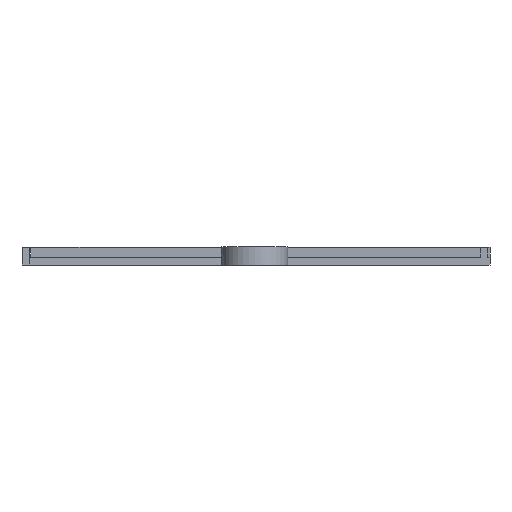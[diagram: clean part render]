
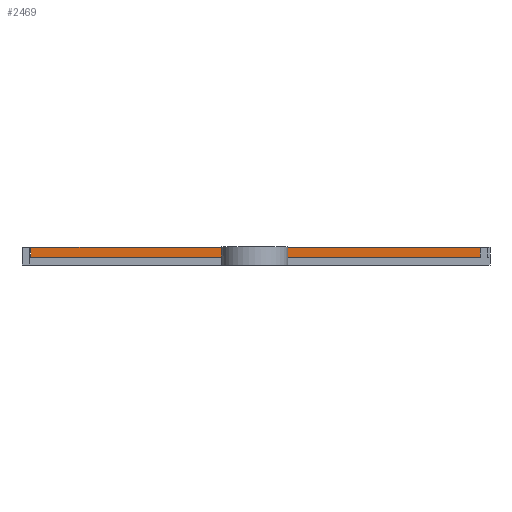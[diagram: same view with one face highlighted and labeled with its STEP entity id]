
A CAD part, front view. The second image highlights one B-rep face of the part: STEP entity #2469.
In plain terms, the highlighted planar face has unit normal (0, -1, 0).
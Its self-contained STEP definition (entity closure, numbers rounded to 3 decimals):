
#44 = PLANE('',#45);
#45 = AXIS2_PLACEMENT_3D('',#46,#47,#48);
#46 = CARTESIAN_POINT('',(-40.3,-21.3,1.2));
#47 = DIRECTION('',(0.,0.,1.));
#48 = DIRECTION('',(1.,0.,0.));
#339 = VERTEX_POINT('',#340);
#340 = CARTESIAN_POINT('',(30.3,-20.9,1.2));
#354 = PLANE('',#355);
#355 = AXIS2_PLACEMENT_3D('',#356,#357,#358);
#356 = CARTESIAN_POINT('',(30.3,-21.3,0.));
#357 = DIRECTION('',(1.,0.,0.));
#358 = DIRECTION('',(0.,0.,1.));
#365 = EDGE_CURVE('',#339,#366,#368,.T.);
#366 = VERTEX_POINT('',#367);
#367 = CARTESIAN_POINT('',(-40.,-20.9,1.2));
#368 = SURFACE_CURVE('',#369,(#373,#380),.PCURVE_S1.);
#369 = LINE('',#370,#371);
#370 = CARTESIAN_POINT('',(-40.15,-20.9,1.2));
#371 = VECTOR('',#372,1.);
#372 = DIRECTION('',(-1.,0.,0.));
#373 = PCURVE('',#44,#374);
#374 = DEFINITIONAL_REPRESENTATION('',(#375),#379);
#375 = LINE('',#376,#377);
#376 = CARTESIAN_POINT('',(0.15,0.4));
#377 = VECTOR('',#378,1.);
#378 = DIRECTION('',(-1.,0.));
#379 = ( GEOMETRIC_REPRESENTATION_CONTEXT(2) 
PARAMETRIC_REPRESENTATION_CONTEXT() REPRESENTATION_CONTEXT('2D SPACE',''
  ) );
#380 = PCURVE('',#381,#386);
#381 = PLANE('',#382);
#382 = AXIS2_PLACEMENT_3D('',#383,#384,#385);
#383 = CARTESIAN_POINT('',(-40.,-20.9,0.));
#384 = DIRECTION('',(0.,1.,0.));
#385 = DIRECTION('',(0.,0.,1.));
#386 = DEFINITIONAL_REPRESENTATION('',(#387),#390);
#387 = B_SPLINE_CURVE_WITH_KNOTS('',1,(#388,#389),.UNSPECIFIED.,.F.,.F.,
  (2,2),(-71.95,-0.15),.PIECEWISE_BEZIER_KNOTS.);
#388 = CARTESIAN_POINT('',(1.2,71.8));
#389 = CARTESIAN_POINT('',(1.2,0.));
#390 = ( GEOMETRIC_REPRESENTATION_CONTEXT(2) 
PARAMETRIC_REPRESENTATION_CONTEXT() REPRESENTATION_CONTEXT('2D SPACE',''
  ) );
#408 = PLANE('',#409);
#409 = AXIS2_PLACEMENT_3D('',#410,#411,#412);
#410 = CARTESIAN_POINT('',(-40.,-20.9,0.));
#411 = DIRECTION('',(1.,0.,0.));
#412 = DIRECTION('',(0.,0.,1.));
#2044 = PLANE('',#2045);
#2045 = AXIS2_PLACEMENT_3D('',#2046,#2047,#2048);
#2046 = CARTESIAN_POINT('',(30.3,-21.3,2.75));
#2047 = DIRECTION('',(0.,0.,1.));
#2048 = DIRECTION('',(1.,0.,0.));
#2424 = EDGE_CURVE('',#366,#2425,#2427,.T.);
#2425 = VERTEX_POINT('',#2426);
#2426 = CARTESIAN_POINT('',(-40.,-20.9,2.75));
#2427 = SURFACE_CURVE('',#2428,(#2432,#2439),.PCURVE_S1.);
#2428 = LINE('',#2429,#2430);
#2429 = CARTESIAN_POINT('',(-40.,-20.9,0.));
#2430 = VECTOR('',#2431,1.);
#2431 = DIRECTION('',(0.,0.,1.));
#2432 = PCURVE('',#408,#2433);
#2433 = DEFINITIONAL_REPRESENTATION('',(#2434),#2438);
#2434 = LINE('',#2435,#2436);
#2435 = CARTESIAN_POINT('',(0.,0.));
#2436 = VECTOR('',#2437,1.);
#2437 = DIRECTION('',(1.,0.));
#2438 = ( GEOMETRIC_REPRESENTATION_CONTEXT(2) 
PARAMETRIC_REPRESENTATION_CONTEXT() REPRESENTATION_CONTEXT('2D SPACE',''
  ) );
#2439 = PCURVE('',#381,#2440);
#2440 = DEFINITIONAL_REPRESENTATION('',(#2441),#2445);
#2441 = LINE('',#2442,#2443);
#2442 = CARTESIAN_POINT('',(0.,0.));
#2443 = VECTOR('',#2444,1.);
#2444 = DIRECTION('',(1.,0.));
#2445 = ( GEOMETRIC_REPRESENTATION_CONTEXT(2) 
PARAMETRIC_REPRESENTATION_CONTEXT() REPRESENTATION_CONTEXT('2D SPACE',''
  ) );
#2469 = ADVANCED_FACE('',(#2470),#381,.F.);
#2470 = FACE_BOUND('',#2471,.F.);
#2471 = EDGE_LOOP('',(#2472,#2493,#2494,#2495));
#2472 = ORIENTED_EDGE('',*,*,#2473,.T.);
#2473 = EDGE_CURVE('',#2474,#339,#2476,.T.);
#2474 = VERTEX_POINT('',#2475);
#2475 = CARTESIAN_POINT('',(30.3,-20.9,2.75));
#2476 = SURFACE_CURVE('',#2477,(#2481,#2487),.PCURVE_S1.);
#2477 = LINE('',#2478,#2479);
#2478 = CARTESIAN_POINT('',(30.3,-20.9,0.));
#2479 = VECTOR('',#2480,1.);
#2480 = DIRECTION('',(0.,0.,-1.));
#2481 = PCURVE('',#381,#2482);
#2482 = DEFINITIONAL_REPRESENTATION('',(#2483),#2486);
#2483 = B_SPLINE_CURVE_WITH_KNOTS('',1,(#2484,#2485),.UNSPECIFIED.,.F.,
  .F.,(2,2),(-2.75,-1.2),.PIECEWISE_BEZIER_KNOTS.);
#2484 = CARTESIAN_POINT('',(2.75,70.3));
#2485 = CARTESIAN_POINT('',(1.2,70.3));
#2486 = ( GEOMETRIC_REPRESENTATION_CONTEXT(2) 
PARAMETRIC_REPRESENTATION_CONTEXT() REPRESENTATION_CONTEXT('2D SPACE',''
  ) );
#2487 = PCURVE('',#354,#2488);
#2488 = DEFINITIONAL_REPRESENTATION('',(#2489),#2492);
#2489 = B_SPLINE_CURVE_WITH_KNOTS('',1,(#2490,#2491),.UNSPECIFIED.,.F.,
  .F.,(2,2),(-2.75,-1.2),.PIECEWISE_BEZIER_KNOTS.);
#2490 = CARTESIAN_POINT('',(2.75,-0.4));
#2491 = CARTESIAN_POINT('',(1.2,-0.4));
#2492 = ( GEOMETRIC_REPRESENTATION_CONTEXT(2) 
PARAMETRIC_REPRESENTATION_CONTEXT() REPRESENTATION_CONTEXT('2D SPACE',''
  ) );
#2493 = ORIENTED_EDGE('',*,*,#365,.T.);
#2494 = ORIENTED_EDGE('',*,*,#2424,.T.);
#2495 = ORIENTED_EDGE('',*,*,#2496,.T.);
#2496 = EDGE_CURVE('',#2425,#2474,#2497,.T.);
#2497 = SURFACE_CURVE('',#2498,(#2502,#2509),.PCURVE_S1.);
#2498 = LINE('',#2499,#2500);
#2499 = CARTESIAN_POINT('',(-40.,-20.9,2.75));
#2500 = VECTOR('',#2501,1.);
#2501 = DIRECTION('',(1.,0.,0.));
#2502 = PCURVE('',#381,#2503);
#2503 = DEFINITIONAL_REPRESENTATION('',(#2504),#2508);
#2504 = LINE('',#2505,#2506);
#2505 = CARTESIAN_POINT('',(2.75,0.));
#2506 = VECTOR('',#2507,1.);
#2507 = DIRECTION('',(0.,1.));
#2508 = ( GEOMETRIC_REPRESENTATION_CONTEXT(2) 
PARAMETRIC_REPRESENTATION_CONTEXT() REPRESENTATION_CONTEXT('2D SPACE',''
  ) );
#2509 = PCURVE('',#2044,#2510);
#2510 = DEFINITIONAL_REPRESENTATION('',(#2511),#2515);
#2511 = LINE('',#2512,#2513);
#2512 = CARTESIAN_POINT('',(-70.3,0.4));
#2513 = VECTOR('',#2514,1.);
#2514 = DIRECTION('',(1.,0.));
#2515 = ( GEOMETRIC_REPRESENTATION_CONTEXT(2) 
PARAMETRIC_REPRESENTATION_CONTEXT() REPRESENTATION_CONTEXT('2D SPACE',''
  ) );
